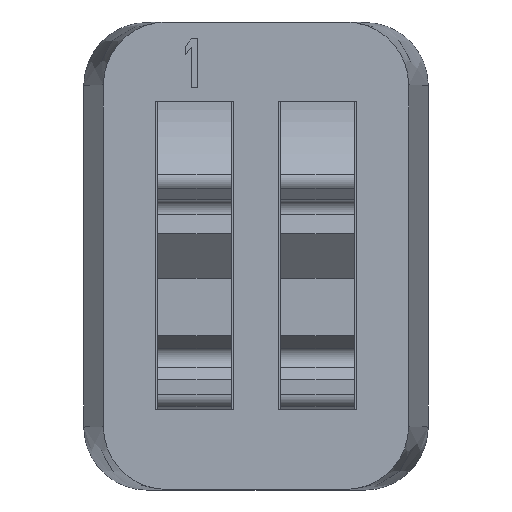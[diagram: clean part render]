
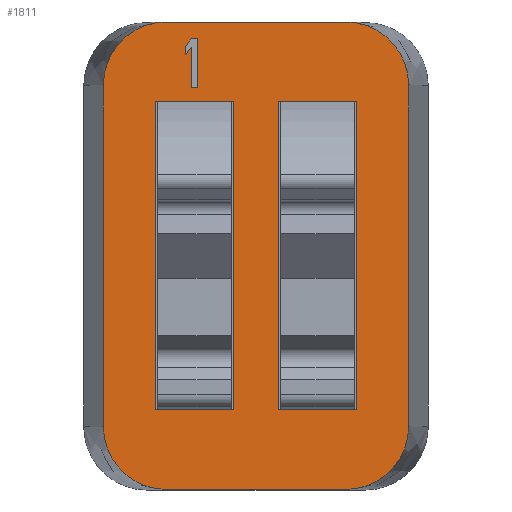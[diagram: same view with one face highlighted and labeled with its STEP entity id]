
A CAD part, top view. The second image highlights one B-rep face of the part: STEP entity #1811.
In plain terms, the highlighted planar face has unit normal (0, 0, 1).
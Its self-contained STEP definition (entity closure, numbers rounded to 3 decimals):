
#244=CARTESIAN_POINT('',(-1.85,3.525,7.37));
#245=DIRECTION('',(0.,0.,1.));
#246=DIRECTION('',(0.,1.,0.));
#247=AXIS2_PLACEMENT_3D('',#244,#245,#246);
#249=DIRECTION('',(-1.,0.,0.));
#250=VECTOR('',#249,3.7);
#251=CARTESIAN_POINT('',(1.85,4.825,7.37));
#252=LINE('',#251,#250);
#253=CARTESIAN_POINT('',(1.85,3.525,7.37));
#254=DIRECTION('',(0.,0.,1.));
#255=DIRECTION('',(1.,0.,0.));
#256=AXIS2_PLACEMENT_3D('',#253,#254,#255);
#258=DIRECTION('',(0.,1.,0.));
#259=VECTOR('',#258,7.05);
#260=CARTESIAN_POINT('',(3.15,-3.525,7.37));
#261=LINE('',#260,#259);
#262=CARTESIAN_POINT('',(1.85,-3.525,7.37));
#263=DIRECTION('',(0.,0.,1.));
#264=DIRECTION('',(0.,-1.,0.));
#265=AXIS2_PLACEMENT_3D('',#262,#263,#264);
#267=DIRECTION('',(1.,0.,0.));
#268=VECTOR('',#267,3.7);
#269=CARTESIAN_POINT('',(-1.85,-4.825,7.37));
#270=LINE('',#269,#268);
#271=CARTESIAN_POINT('',(-1.85,-3.525,7.37));
#272=DIRECTION('',(0.,0.,1.));
#273=DIRECTION('',(-1.,0.,0.));
#274=AXIS2_PLACEMENT_3D('',#271,#272,#273);
#276=DIRECTION('',(0.,-1.,0.));
#277=VECTOR('',#276,7.05);
#278=CARTESIAN_POINT('',(-3.15,3.525,7.37));
#279=LINE('',#278,#277);
#280=DIRECTION('',(0.,1.,0.));
#281=VECTOR('',#280,6.35);
#282=CARTESIAN_POINT('',(0.455,-3.175,7.37));
#283=LINE('',#282,#281);
#284=DIRECTION('',(1.,0.,0.));
#285=VECTOR('',#284,1.63);
#286=CARTESIAN_POINT('',(0.455,-3.175,7.37));
#287=LINE('',#286,#285);
#288=DIRECTION('',(0.,1.,0.));
#289=VECTOR('',#288,6.35);
#290=CARTESIAN_POINT('',(2.085,-3.175,7.37));
#291=LINE('',#290,#289);
#292=DIRECTION('',(1.,0.,0.));
#293=VECTOR('',#292,1.63);
#294=CARTESIAN_POINT('',(0.455,3.175,7.37));
#295=LINE('',#294,#293);
#296=DIRECTION('',(0.,1.,0.));
#297=VECTOR('',#296,6.35);
#298=CARTESIAN_POINT('',(-2.085,-3.175,7.37));
#299=LINE('',#298,#297);
#300=DIRECTION('',(1.,0.,0.));
#301=VECTOR('',#300,1.63);
#302=CARTESIAN_POINT('',(-2.085,-3.175,7.37));
#303=LINE('',#302,#301);
#304=DIRECTION('',(0.,1.,0.));
#305=VECTOR('',#304,6.35);
#306=CARTESIAN_POINT('',(-0.455,-3.175,7.37));
#307=LINE('',#306,#305);
#308=DIRECTION('',(1.,0.,0.));
#309=VECTOR('',#308,1.63);
#310=CARTESIAN_POINT('',(-2.085,3.175,7.37));
#311=LINE('',#310,#309);
#312=DIRECTION('',(0.,1.,0.));
#313=VECTOR('',#312,1.);
#314=CARTESIAN_POINT('',(-1.208,3.475,7.37));
#315=LINE('',#314,#313);
#316=DIRECTION('',(-1.,0.,0.));
#317=VECTOR('',#316,0.125);
#318=CARTESIAN_POINT('',(-1.208,4.475,7.37));
#319=LINE('',#318,#317);
#320=DIRECTION('',(-0.643,-0.766,0.));
#321=VECTOR('',#320,0.194);
#322=CARTESIAN_POINT('',(-1.333,4.475,7.37));
#323=LINE('',#322,#321);
#324=DIRECTION('',(0.,-1.,0.));
#325=VECTOR('',#324,0.17);
#326=CARTESIAN_POINT('',(-1.458,4.326,7.37));
#327=LINE('',#326,#325);
#328=DIRECTION('',(0.643,0.766,0.));
#329=VECTOR('',#328,0.194);
#330=CARTESIAN_POINT('',(-1.458,4.156,7.37));
#331=LINE('',#330,#329);
#332=DIRECTION('',(0.,-1.,0.));
#333=VECTOR('',#332,0.83);
#334=CARTESIAN_POINT('',(-1.333,4.305,7.37));
#335=LINE('',#334,#333);
#336=DIRECTION('',(1.,0.,0.));
#337=VECTOR('',#336,0.125);
#338=CARTESIAN_POINT('',(-1.333,3.475,7.37));
#339=LINE('',#338,#337);
#1148=CARTESIAN_POINT('',(-1.85,4.825,7.37));
#1149=CARTESIAN_POINT('',(-3.15,3.525,7.37));
#1150=VERTEX_POINT('',#1148);
#1151=VERTEX_POINT('',#1149);
#1152=CARTESIAN_POINT('',(-3.15,-3.525,7.37));
#1153=VERTEX_POINT('',#1152);
#1154=CARTESIAN_POINT('',(-1.85,-4.825,7.37));
#1155=VERTEX_POINT('',#1154);
#1156=CARTESIAN_POINT('',(1.85,-4.825,7.37));
#1157=VERTEX_POINT('',#1156);
#1158=CARTESIAN_POINT('',(3.15,-3.525,7.37));
#1159=VERTEX_POINT('',#1158);
#1160=CARTESIAN_POINT('',(3.15,3.525,7.37));
#1161=VERTEX_POINT('',#1160);
#1162=CARTESIAN_POINT('',(1.85,4.825,7.37));
#1163=VERTEX_POINT('',#1162);
#1212=CARTESIAN_POINT('',(0.455,-3.175,7.37));
#1213=CARTESIAN_POINT('',(0.455,3.175,7.37));
#1214=VERTEX_POINT('',#1212);
#1215=VERTEX_POINT('',#1213);
#1216=CARTESIAN_POINT('',(2.085,-3.175,7.37));
#1217=CARTESIAN_POINT('',(2.085,3.175,7.37));
#1218=VERTEX_POINT('',#1216);
#1219=VERTEX_POINT('',#1217);
#1228=CARTESIAN_POINT('',(-2.085,-3.175,7.37));
#1229=CARTESIAN_POINT('',(-2.085,3.175,7.37));
#1230=VERTEX_POINT('',#1228);
#1231=VERTEX_POINT('',#1229);
#1232=CARTESIAN_POINT('',(-0.455,-3.175,7.37));
#1233=CARTESIAN_POINT('',(-0.455,3.175,7.37));
#1234=VERTEX_POINT('',#1232);
#1235=VERTEX_POINT('',#1233);
#1450=CARTESIAN_POINT('',(-1.208,3.475,7.37));
#1451=CARTESIAN_POINT('',(-1.208,4.475,7.37));
#1452=VERTEX_POINT('',#1450);
#1453=VERTEX_POINT('',#1451);
#1454=CARTESIAN_POINT('',(-1.333,4.475,7.37));
#1455=VERTEX_POINT('',#1454);
#1456=CARTESIAN_POINT('',(-1.458,4.326,7.37));
#1457=VERTEX_POINT('',#1456);
#1458=CARTESIAN_POINT('',(-1.458,4.156,7.37));
#1459=VERTEX_POINT('',#1458);
#1460=CARTESIAN_POINT('',(-1.333,4.305,7.37));
#1461=VERTEX_POINT('',#1460);
#1462=CARTESIAN_POINT('',(-1.333,3.475,7.37));
#1463=VERTEX_POINT('',#1462);
#1760=CARTESIAN_POINT('',(0.,0.,7.37));
#1761=DIRECTION('',(0.,0.,1.));
#1762=DIRECTION('',(1.,0.,0.));
#1763=AXIS2_PLACEMENT_3D('',#1760,#1761,#1762);
#1764=PLANE('',#1763);
#1765=ORIENTED_EDGE('',*,*,#1584,.F.);
#1766=ORIENTED_EDGE('',*,*,#1599,.F.);
#1767=ORIENTED_EDGE('',*,*,#1637,.F.);
#1768=ORIENTED_EDGE('',*,*,#1651,.F.);
#1769=ORIENTED_EDGE('',*,*,#1689,.F.);
#1770=ORIENTED_EDGE('',*,*,#1703,.F.);
#1771=ORIENTED_EDGE('',*,*,#1741,.F.);
#1772=ORIENTED_EDGE('',*,*,#1754,.F.);
#1773=EDGE_LOOP('',(#1765,#1766,#1767,#1768,#1769,#1770,#1771,#1772));
#1774=FACE_OUTER_BOUND('',#1773,.F.);
#1776=ORIENTED_EDGE('',*,*,#1775,.F.);
#1778=ORIENTED_EDGE('',*,*,#1777,.T.);
#1780=ORIENTED_EDGE('',*,*,#1779,.T.);
#1782=ORIENTED_EDGE('',*,*,#1781,.F.);
#1783=EDGE_LOOP('',(#1776,#1778,#1780,#1782));
#1784=FACE_BOUND('',#1783,.F.);
#1786=ORIENTED_EDGE('',*,*,#1785,.F.);
#1788=ORIENTED_EDGE('',*,*,#1787,.T.);
#1790=ORIENTED_EDGE('',*,*,#1789,.T.);
#1792=ORIENTED_EDGE('',*,*,#1791,.F.);
#1793=EDGE_LOOP('',(#1786,#1788,#1790,#1792));
#1794=FACE_BOUND('',#1793,.F.);
#1796=ORIENTED_EDGE('',*,*,#1795,.T.);
#1798=ORIENTED_EDGE('',*,*,#1797,.T.);
#1800=ORIENTED_EDGE('',*,*,#1799,.T.);
#1802=ORIENTED_EDGE('',*,*,#1801,.T.);
#1804=ORIENTED_EDGE('',*,*,#1803,.T.);
#1806=ORIENTED_EDGE('',*,*,#1805,.T.);
#1808=ORIENTED_EDGE('',*,*,#1807,.T.);
#1809=EDGE_LOOP('',(#1796,#1798,#1800,#1802,#1804,#1806,#1808));
#1810=FACE_BOUND('',#1809,.F.);
#1811=ADVANCED_FACE('',(#1774,#1784,#1794,#1810),#1764,.T.);
#248=CIRCLE('',#247,1.3);
#257=CIRCLE('',#256,1.3);
#266=CIRCLE('',#265,1.3);
#275=CIRCLE('',#274,1.3);
#1584=EDGE_CURVE('',#1150,#1151,#248,.T.);
#1599=EDGE_CURVE('',#1163,#1150,#252,.T.);
#1637=EDGE_CURVE('',#1161,#1163,#257,.T.);
#1651=EDGE_CURVE('',#1159,#1161,#261,.T.);
#1689=EDGE_CURVE('',#1157,#1159,#266,.T.);
#1703=EDGE_CURVE('',#1155,#1157,#270,.T.);
#1741=EDGE_CURVE('',#1153,#1155,#275,.T.);
#1754=EDGE_CURVE('',#1151,#1153,#279,.T.);
#1775=EDGE_CURVE('',#1214,#1215,#283,.T.);
#1777=EDGE_CURVE('',#1214,#1218,#287,.T.);
#1779=EDGE_CURVE('',#1218,#1219,#291,.T.);
#1781=EDGE_CURVE('',#1215,#1219,#295,.T.);
#1785=EDGE_CURVE('',#1230,#1231,#299,.T.);
#1787=EDGE_CURVE('',#1230,#1234,#303,.T.);
#1789=EDGE_CURVE('',#1234,#1235,#307,.T.);
#1791=EDGE_CURVE('',#1231,#1235,#311,.T.);
#1795=EDGE_CURVE('',#1452,#1453,#315,.T.);
#1797=EDGE_CURVE('',#1453,#1455,#319,.T.);
#1799=EDGE_CURVE('',#1455,#1457,#323,.T.);
#1801=EDGE_CURVE('',#1457,#1459,#327,.T.);
#1803=EDGE_CURVE('',#1459,#1461,#331,.T.);
#1805=EDGE_CURVE('',#1461,#1463,#335,.T.);
#1807=EDGE_CURVE('',#1463,#1452,#339,.T.);
